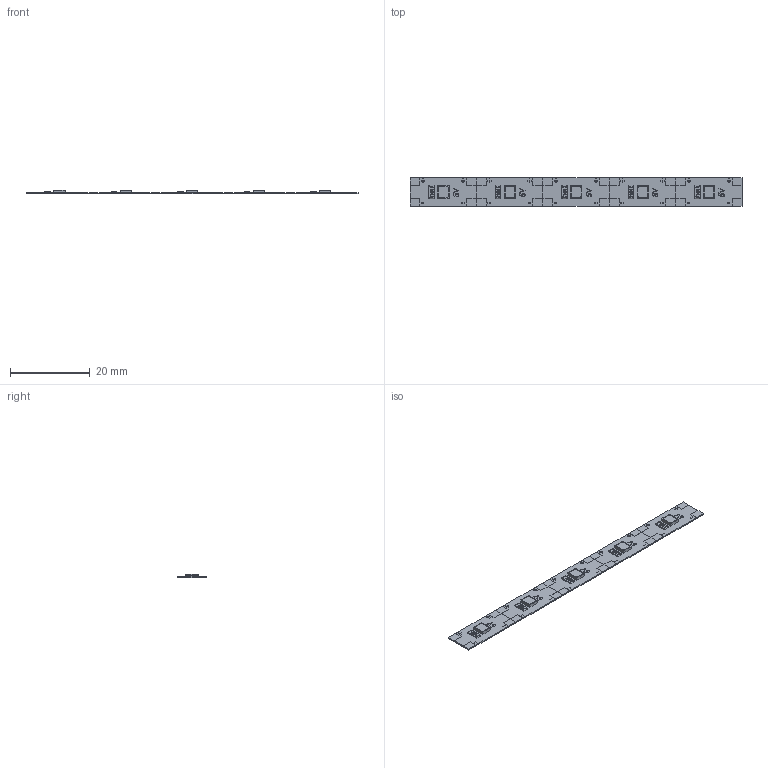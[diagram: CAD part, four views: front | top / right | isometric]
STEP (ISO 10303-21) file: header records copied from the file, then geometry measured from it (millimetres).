
FILE_DESCRIPTION (( 'STEP AP214' ), '1' );
FILE_NAME ('LED_5V_5x.STEP', '2023-02-13T09:39:30', ( '' ), ( '' ), 'SwSTEP 2.0', 'SolidWorks 2018', '' );
FILE_SCHEMA (( 'AUTOMOTIVE_DESIGN' ));
Length unit declared in the file: millimetre
Products named in the file (7): LED_Segment5V_60; LED_5V_5x
Assembly tree (5 placements, depth 2):
  LED_Segment5V_60
  LED_Segment5V_60
  LED_Segment5V_60
  LED_Segment5V_60
  LED_5V_5x
    LED_Segment5V_60  x5
Bounding box: 83.35 x 7.2 x 1 mm (x, y, z)
Volume: 218 mm3; surface area: 1330.1 mm2
Topology: 5 solids, 5 shells, 665 faces, 1750 edges, 1160 vertices
Faces by surface type: plane 510, bspline 85, cylinder 50, torus 20
Entity records: 6718 total; most frequent: CARTESIAN_POINT 2089, ORIENTED_EDGE 700, DIRECTION 586, EDGE_CURVE 350, VECTOR 288, LINE 288, VERTEX_POINT 232, AXIS2_PLACEMENT_3D 149
